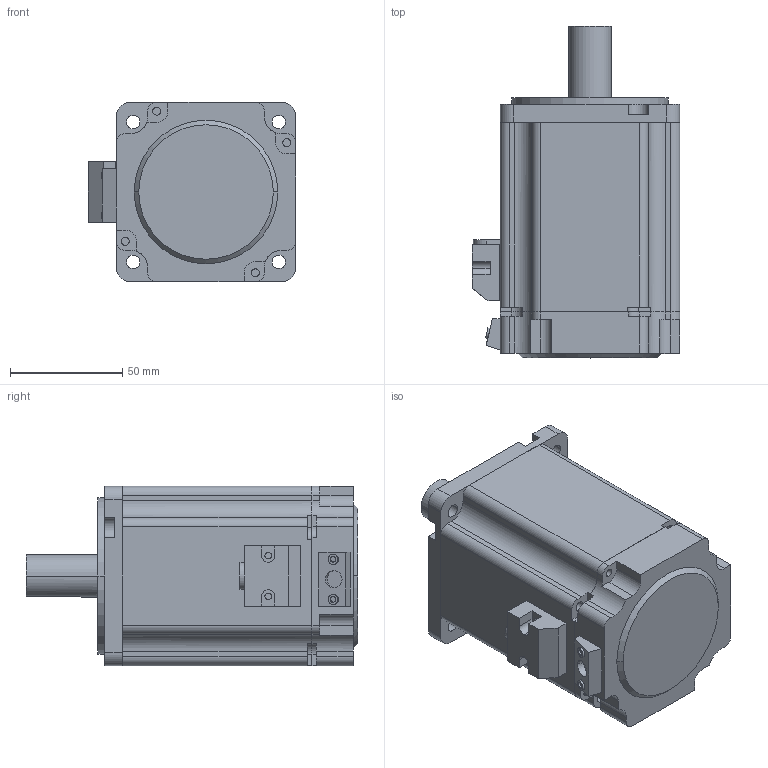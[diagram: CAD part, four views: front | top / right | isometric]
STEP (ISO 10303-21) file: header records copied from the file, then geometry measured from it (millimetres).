
FILE_DESCRIPTION (( 'STEP AP214' ), '1' );
FILE_NAME ('TSM80JP750-48-5-N.STEP', '2020-12-12T02:24:35', ( '' ), ( '' ), 'SwSTEP 2.0', 'SolidWorks 2020', '' );
FILE_SCHEMA (( 'AUTOMOTIVE_DESIGN' ));
Length unit declared in the file: millimetre
Products named in the file (5): 綴盄杶; ヶ裔; TSM80JP750-48-5-N; 誘盄杶; 綴欶
Assembly tree (4 placements, depth 2):
  TSM80JP750-48-5-N
    綴欶
    誘盄杶
    ヶ裔
    綴盄杶
Bounding box: 92.5 x 148 x 80 mm (x, y, z)
Volume: 645645.1 mm3; surface area: 83264.6 mm2
Topology: 6 solids, 6 shells, 245 faces, 659 edges, 437 vertices
Faces by surface type: plane 127, cylinder 114, cone 4
Entity records: 8089 total; most frequent: DIRECTION 1404, CARTESIAN_POINT 1377, ORIENTED_EDGE 1314, EDGE_CURVE 657, AXIS2_PLACEMENT_3D 496, VERTEX_POINT 437, LINE 412, VECTOR 412
